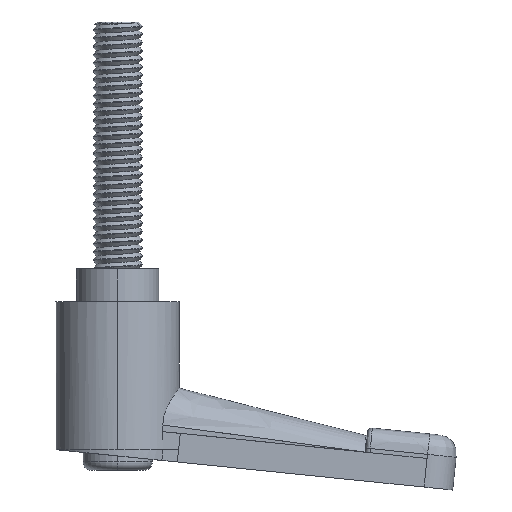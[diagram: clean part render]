
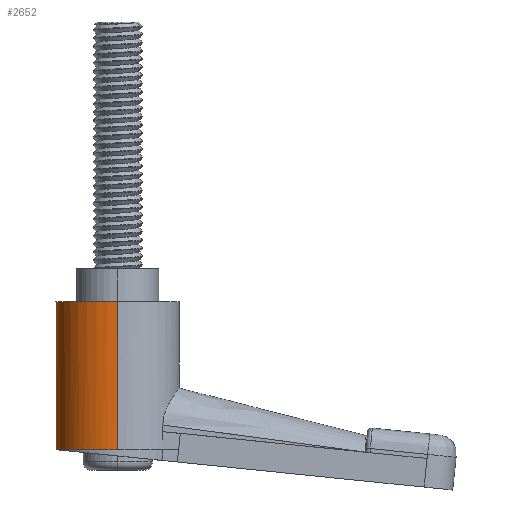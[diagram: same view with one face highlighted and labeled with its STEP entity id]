
A CAD part, left-side view. The second image highlights one B-rep face of the part: STEP entity #2652.
In plain terms, the highlighted cylindrical face has radius 7.5 mm (diameter 15 mm), a partial arc.
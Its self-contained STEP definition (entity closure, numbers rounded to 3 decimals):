
#163 = DIRECTION ( 'NONE',  ( 0., 0., 1. ) ) ;
#449 = CARTESIAN_POINT ( 'NONE',  ( 1.665, 7.313, -22. ) ) ;
#467 = CARTESIAN_POINT ( 'NONE',  ( 7.5, 0., -22. ) ) ;
#534 = ORIENTED_EDGE ( 'NONE', *, *, #3279, .T. ) ;
#655 = CARTESIAN_POINT ( 'NONE',  ( -7.5, 0., -22. ) ) ;
#774 = ORIENTED_EDGE ( 'NONE', *, *, #7116, .T. ) ;
#882 = VERTEX_POINT ( 'NONE', #655 ) ;
#1079 = B_SPLINE_CURVE_WITH_KNOTS ( 'NONE', 3,
 ( #3091, #5318, #4189, #3064, #2997, #2922, #2911, #2884, #2847, #2711, #2679, #5255 ),
 .UNSPECIFIED., .F., .F.,
 ( 4, 2, 2, 2, 2, 4 ),
 ( 0.006, 0.007, 0.009, 0.011, 0.014, 0.016 ),
 .UNSPECIFIED. ) ;
#1511 = CARTESIAN_POINT ( 'NONE',  ( -4.702, 5.903, -22. ) ) ;
#1610 = EDGE_CURVE ( 'NONE', #8081, #6861, #1079, .T. ) ;
#1709 = CYLINDRICAL_SURFACE ( 'NONE', #3146, 7.5 ) ;
#2038 = DIRECTION ( 'NONE',  ( 0., 0., 1. ) ) ;
#2223 = DIRECTION ( 'NONE',  ( 1., 0., 0. ) ) ;
#2283 = CARTESIAN_POINT ( 'NONE',  ( -6.388, 4.018, -22. ) ) ;
#2456 = CARTESIAN_POINT ( 'NONE',  ( 0., 0., -22. ) ) ;
#2489 = DIRECTION ( 'NONE',  ( 0., 0., 1. ) ) ;
#2538 = LINE ( 'NONE', #7787, #4544 ) ;
#2652 = ADVANCED_FACE ( 'NONE', ( #6280 ), #1709, .T. ) ;
#2679 = CARTESIAN_POINT ( 'NONE',  ( 2.49, 7.125, -22. ) ) ;
#2711 = CARTESIAN_POINT ( 'NONE',  ( 3.263, 6.806, -22. ) ) ;
#2847 = CARTESIAN_POINT ( 'NONE',  ( 4.696, 5.908, -22. ) ) ;
#2884 = CARTESIAN_POINT ( 'NONE',  ( 5.333, 5.34, -22. ) ) ;
#2911 = CARTESIAN_POINT ( 'NONE',  ( 6.388, 4.019, -22. ) ) ;
#2922 = CARTESIAN_POINT ( 'NONE',  ( 6.801, 3.272, -22. ) ) ;
#2997 = CARTESIAN_POINT ( 'NONE',  ( 7.22, 2.075, -22. ) ) ;
#3032 = CARTESIAN_POINT ( 'NONE',  ( -7.357, 1.682, -22. ) ) ;
#3064 = CARTESIAN_POINT ( 'NONE',  ( 7.325, 1.665, -22. ) ) ;
#3091 = CARTESIAN_POINT ( 'NONE',  ( 7.5, 0., -22. ) ) ;
#3146 = AXIS2_PLACEMENT_3D ( 'NONE', #2456, #2489, #2223 ) ;
#3279 = EDGE_CURVE ( 'NONE', #9869, #882, #6650, .T. ) ;
#3548 = CARTESIAN_POINT ( 'NONE',  ( 7.5, 0., -4. ) ) ;
#3569 = CIRCLE ( 'NONE', #9329, 7.5 ) ;
#3782 = DIRECTION ( 'NONE',  ( 0., 0., -1. ) ) ;
#3789 = CARTESIAN_POINT ( 'NONE',  ( -7.5, 0., -22. ) ) ;
#3813 = DIRECTION ( 'NONE',  ( 0., 0., -1. ) ) ;
#4056 = VECTOR ( 'NONE', #2038, 1000. ) ;
#4145 = VERTEX_POINT ( 'NONE', #9768 ) ;
#4189 = CARTESIAN_POINT ( 'NONE',  ( 7.465, 0.834, -22. ) ) ;
#4544 = VECTOR ( 'NONE', #163, 1000. ) ;
#4924 = ORIENTED_EDGE ( 'NONE', *, *, #1610, .T. ) ;
#5255 = CARTESIAN_POINT ( 'NONE',  ( 1.665, 7.313, -22. ) ) ;
#5290 = CARTESIAN_POINT ( 'NONE',  ( -1.665, 7.313, -22. ) ) ;
#5318 = CARTESIAN_POINT ( 'NONE',  ( 7.5, 0.417, -22. ) ) ;
#6079 = CARTESIAN_POINT ( 'NONE',  ( -3.274, 6.8, -22. ) ) ;
#6280 = FACE_OUTER_BOUND ( 'NONE', #7694, .T. ) ;
#6394 = VERTEX_POINT ( 'NONE', #3548 ) ;
#6545 = EDGE_CURVE ( 'NONE', #4145, #6394, #9442, .T. ) ;
#6588 = CARTESIAN_POINT ( 'NONE',  ( 7.5, 0., -22. ) ) ;
#6650 = B_SPLINE_CURVE_WITH_KNOTS ( 'NONE', 3,
 ( #5290, #9856, #6079, #1511, #6822, #2283, #7597, #3032, #8360, #3789 ),
 .UNSPECIFIED., .F., .F.,
 ( 4, 2, 2, 2, 4 ),
 ( 0., 0.003, 0.005, 0.008, 0.01 ),
 .UNSPECIFIED. ) ;
#6822 = CARTESIAN_POINT ( 'NONE',  ( -5.337, 5.337, -22. ) ) ;
#6861 = VERTEX_POINT ( 'NONE', #449 ) ;
#7013 = ORIENTED_EDGE ( 'NONE', *, *, #9546, .F. ) ;
#7116 = EDGE_CURVE ( 'NONE', #882, #4145, #2538, .T. ) ;
#7352 = ORIENTED_EDGE ( 'NONE', *, *, #6545, .T. ) ;
#7597 = CARTESIAN_POINT ( 'NONE',  ( -6.8, 3.274, -22. ) ) ;
#7694 = EDGE_LOOP ( 'NONE', ( #534, #774, #7352, #8993, #4924, #7013 ) ) ;
#7787 = CARTESIAN_POINT ( 'NONE',  ( -7.5, 0., -22. ) ) ;
#8081 = VERTEX_POINT ( 'NONE', #467 ) ;
#8130 = LINE ( 'NONE', #6588, #4056 ) ;
#8287 = AXIS2_PLACEMENT_3D ( 'NONE', #8380, #3813, #9149 ) ;
#8354 = CARTESIAN_POINT ( 'NONE',  ( 0., 0., -22. ) ) ;
#8360 = CARTESIAN_POINT ( 'NONE',  ( -7.5, 0.843, -22. ) ) ;
#8380 = CARTESIAN_POINT ( 'NONE',  ( 0., 0., -4. ) ) ;
#8596 = EDGE_CURVE ( 'NONE', #8081, #6394, #8130, .T. ) ;
#8993 = ORIENTED_EDGE ( 'NONE', *, *, #8596, .F. ) ;
#9121 = DIRECTION ( 'NONE',  ( -1., 0., 0. ) ) ;
#9149 = DIRECTION ( 'NONE',  ( -1., 0., 0. ) ) ;
#9327 = CARTESIAN_POINT ( 'NONE',  ( -1.665, 7.313, -22. ) ) ;
#9329 = AXIS2_PLACEMENT_3D ( 'NONE', #8354, #3782, #9121 ) ;
#9442 = CIRCLE ( 'NONE', #8287, 7.5 ) ;
#9546 = EDGE_CURVE ( 'NONE', #9869, #6861, #3569, .T. ) ;
#9768 = CARTESIAN_POINT ( 'NONE',  ( -7.5, 0., -4. ) ) ;
#9856 = CARTESIAN_POINT ( 'NONE',  ( -2.488, 7.125, -22. ) ) ;
#9869 = VERTEX_POINT ( 'NONE', #9327 ) ;
